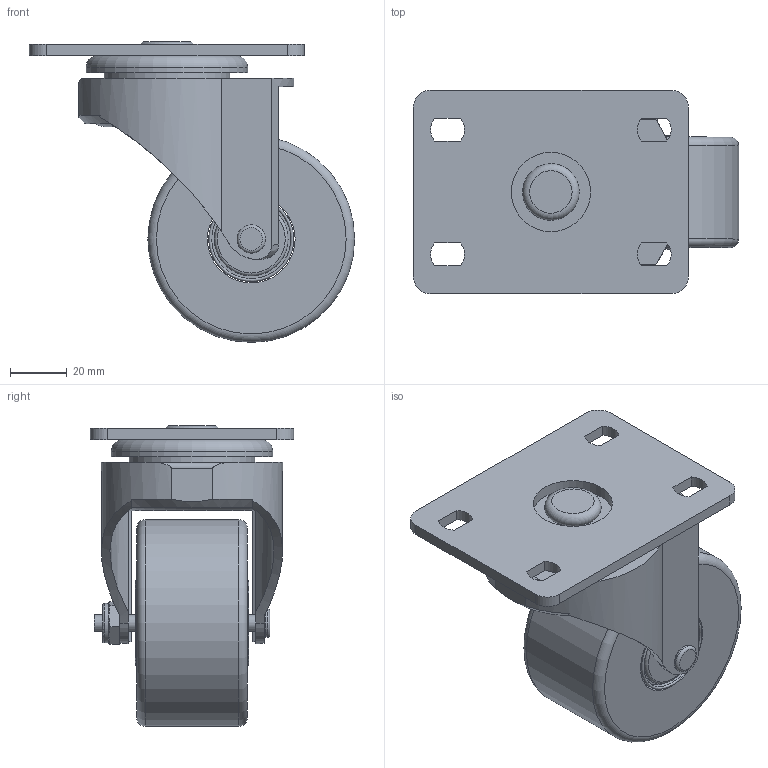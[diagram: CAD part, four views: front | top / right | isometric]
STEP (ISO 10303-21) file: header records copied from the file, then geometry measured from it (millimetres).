
FILE_DESCRIPTION(/* description */ (''),/* implementation_level */ '2;1');
FILE_NAME(/* name */ 'C:\Users\Owner\Documents\硯聰\Inv材料庫-3D新型錄-2019整理\07.共用配件\GW-輪子\GW-3PA.stp',/* time_stamp */ '2019-03-15T13:37:08+08:00',/* author */ ('Owner'),/* organization */ (''),/* preprocessor_version */ 'ST-DEVELOPER v16.1',/* originating_system */ 'Autodesk Inventor 2016',/* authorisation */ '');
FILE_SCHEMA (('AUTOMOTIVE_DESIGN { 1 0 10303 214 3 1 1 }'));
Length unit declared in the file: millimetre
Products named in the file (9): 零件9; 零件2; 零件3; 零件4; 零件5; 零件6; 零件7; 零件8; GW-3PA
Assembly tree (8 placements, depth 2):
  GW-3PA
    零件9
    零件2
    零件3
    零件4
    零件5
    零件6
    零件7
    零件8
Bounding box: 114.85 x 71.8 x 106.23 mm (x, y, z)
Volume: 250315.1 mm3; surface area: 74120.5 mm2
Topology: 8 solids, 8 shells, 153 faces, 366 edges, 227 vertices
Faces by surface type: cylinder 62, plane 60, torus 16, bspline 14, cone 1
Full cylindrical faces by diameter (mm): 2 x1, 5 x1, 6 x5, 10 x1, 12.15 x1, 13.856 x1, 22.614 x1, 26 x2, 28 x3, 30 x1, 31 x1, 33 x1, 35 x1, 37.174 x1, 44.35 x1, 52.359 x1, 53 x1, 57 x1, 73 x1
Entity records: 4861 total; most frequent: CARTESIAN_POINT 1293, DIRECTION 738, ORIENTED_EDGE 608, AXIS2_PLACEMENT_3D 311, EDGE_CURVE 304, EDGE_LOOP 225, VERTEX_POINT 219, FACE_OUTER_BOUND 153
